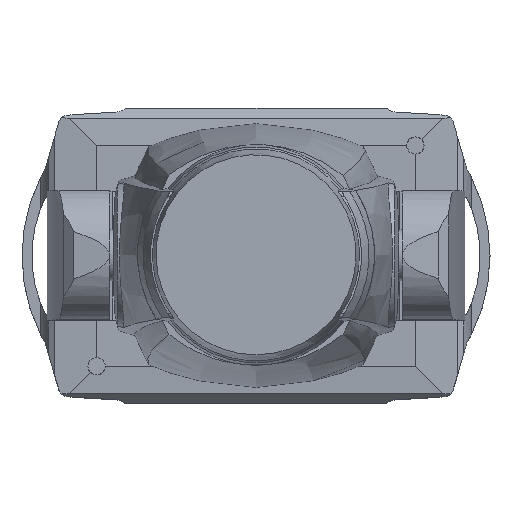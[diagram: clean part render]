
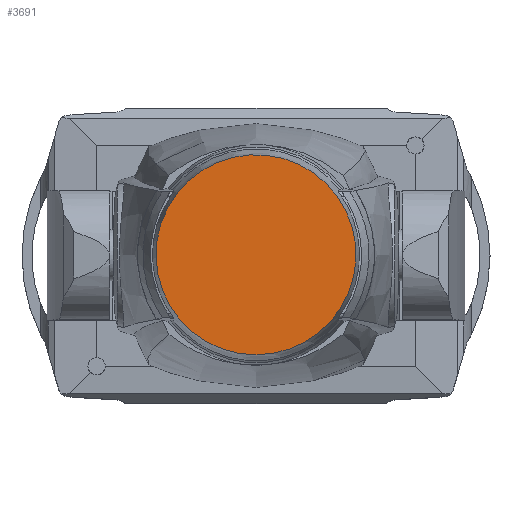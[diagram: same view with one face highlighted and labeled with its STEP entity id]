
A CAD part, top view. The second image highlights one B-rep face of the part: STEP entity #3691.
In plain terms, the highlighted planar face has unit normal (0, 0, 1) as drawn and (0, 1, 0) by its records, which use the part's own axes.
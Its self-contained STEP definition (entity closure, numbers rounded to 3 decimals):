
#317=CIRCLE('',#4061,97.865);
#1825=ORIENTED_EDGE('',*,*,#2425,.T.);
#2425=EDGE_CURVE('',#2816,#2816,#317,.T.);
#2816=VERTEX_POINT('',#12188);
#3133=EDGE_LOOP('',(#1825));
#3381=FACE_BOUND('',#3133,.T.);
#3500=PLANE('',#4060);
#3691=ADVANCED_FACE('',(#3381),#3500,.T.);
#4060=AXIS2_PLACEMENT_3D('',#12186,#4930,#4931);
#4061=AXIS2_PLACEMENT_3D('',#12187,#4932,#4933);
#4930=DIRECTION('',(0.,1.,0.));
#4931=DIRECTION('',(0.,0.,-1.));
#4932=DIRECTION('',(0.,1.,0.));
#4933=DIRECTION('',(0.,0.,-1.));
#12186=CARTESIAN_POINT('',(0.,417.25,89.109));
#12187=CARTESIAN_POINT('',(0.,417.25,0.));
#12188=CARTESIAN_POINT('',(0.,417.25,-97.865));
